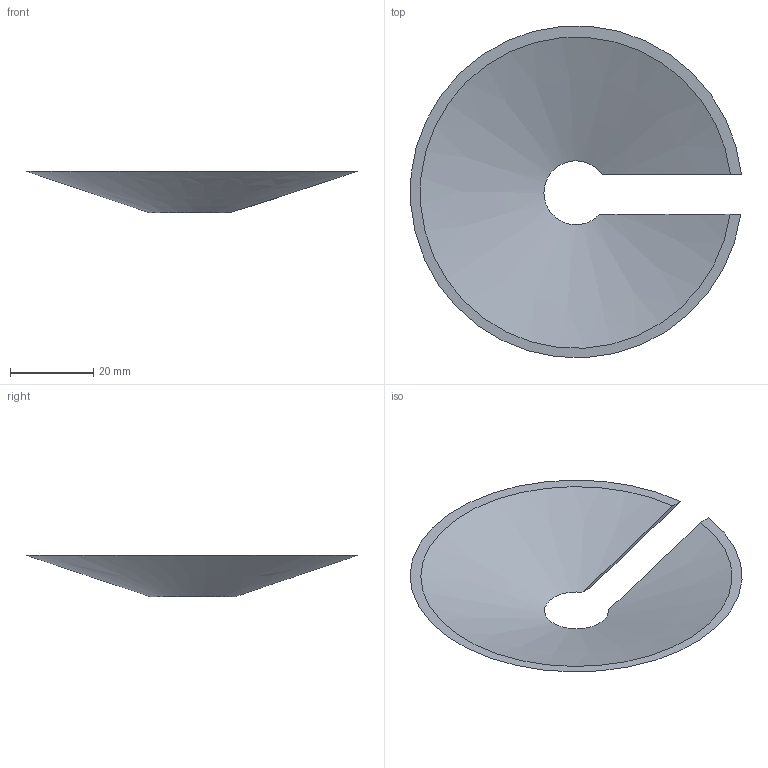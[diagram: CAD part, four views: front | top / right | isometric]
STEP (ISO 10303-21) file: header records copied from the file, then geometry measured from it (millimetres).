
FILE_DESCRIPTION(/* description */ ('STEP AP242 Edition 2','CAx-IF Rec.Pracs.---Representation and Presentation of Product Manufacturing Information (PMI)---4.0---2014-10-13','CAx-IF Rec.Pracs.---3D Tessellated Geometry---0.4---2014-09-14','2;1','CAx-IF Rec.Pracs.---User Defined Attributes---1.5---2016-08-15'),/* implementation_level */ '2;1');
FILE_NAME(/* name */ 'Part Studio 1 - Part 4',/* time_stamp */ '2026-10-19T00:09:51Z',/* author */ (''),/* organization */ (''),/* preprocessor_version */ 'ST-DEVELOPER v20',/* originating_system */ 'ONSHAPE BY PTC INC, 1.222',/* authorisation */ ' ');
FILE_SCHEMA (('AP242_MANAGED_MODEL_BASED_3D_ENGINEERING_MIM_LF { 1 0 10303 442 3 1 4 }'));
Length unit declared in the file: metre
Products named in the file (1): Part 4
Bounding box: 79.68 x 79.8 x 10 mm (x, y, z)
Volume: 3476.1 mm3; surface area: 9559.7 mm2
Topology: 1 solids, 1 shells, 6 faces, 12 edges, 8 vertices
Faces by surface type: plane 4, bspline 1, cone 1
Entity records: 447 total; most frequent: CARTESIAN_POINT 303, ORIENTED_EDGE 24, DIRECTION 24, EDGE_CURVE 12, AXIS2_PLACEMENT_3D 10, VERTEX_POINT 8, EDGE_LOOP 6, FACE_BOUND 6
